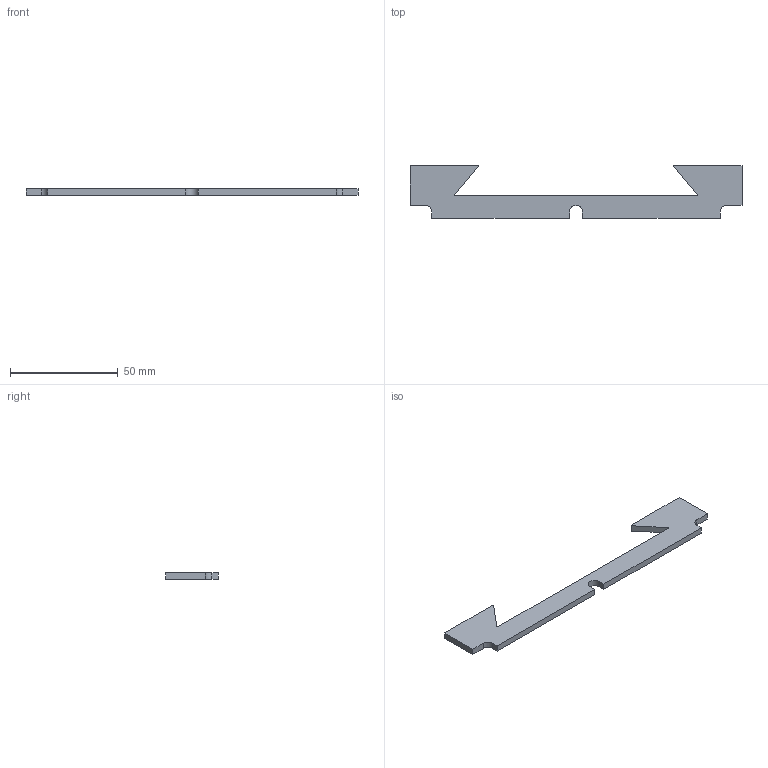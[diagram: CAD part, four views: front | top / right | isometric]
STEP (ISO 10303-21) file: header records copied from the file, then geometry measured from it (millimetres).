
FILE_DESCRIPTION(/* description */ (''),/* implementation_level */ '2;1');
FILE_NAME(/* name */ 'DM1007-00507002 - Z-axis felt.stp',/* time_stamp */ '2024-02-11T16:29:39+01:00',/* author */ (''),/* organization */ (''),/* preprocessor_version */ 'ST-DEVELOPER v16',/* originating_system */ 'SIEMENS PLM Software NX 10.0',/* authorisation */ '');
FILE_SCHEMA (('AUTOMOTIVE_DESIGN { 1 0 10303 214 3 1 1 1 }'));
Length unit declared in the file: millimetre
Products named in the file (1): DM1007-00507002 - Z-axis felt
Bounding box: 154 x 24.5 x 3 mm (x, y, z)
Volume: 6609.2 mm3; surface area: 5670.5 mm2
Topology: 1 solids, 1 shells, 24 faces, 66 edges, 44 vertices
Faces by surface type: plane 17, cylinder 7
Entity records: 799 total; most frequent: CARTESIAN_POINT 136, ORIENTED_EDGE 132, DIRECTION 132, EDGE_CURVE 66, LINE 52, VECTOR 52, VERTEX_POINT 44, AXIS2_PLACEMENT_3D 40
